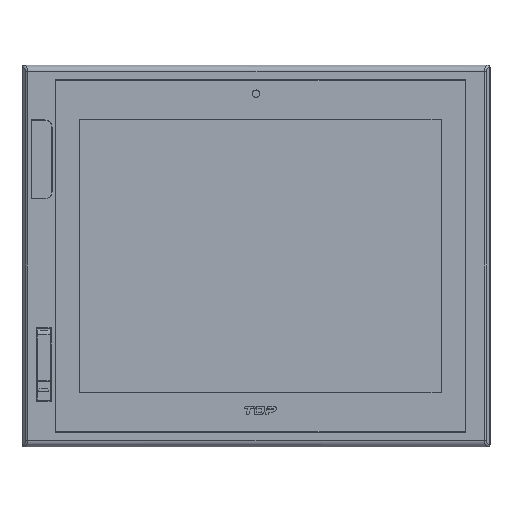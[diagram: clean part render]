
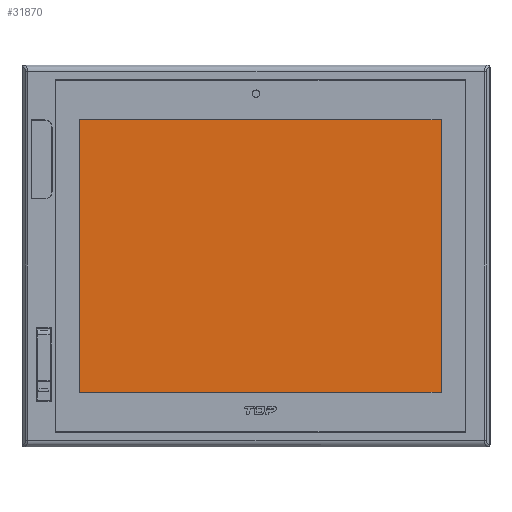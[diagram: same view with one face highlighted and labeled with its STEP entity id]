
A CAD part, top view. The second image highlights one B-rep face of the part: STEP entity #31870.
In plain terms, the highlighted free-form (B-spline) face has degree [1, 1] with [2, 2] control points.
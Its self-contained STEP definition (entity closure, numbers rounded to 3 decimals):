
#7584=DIRECTION('',(0.,-1.,0.));
#7585=VECTOR('',#7584,186.);
#7586=CARTESIAN_POINT('',(-120.5,93.,0.95));
#7587=LINE('',#7586,#7585);
#7591=DIRECTION('',(-1.,0.,0.));
#7592=VECTOR('',#7591,247.);
#7593=CARTESIAN_POINT('',(126.5,93.,0.95));
#7594=LINE('',#7593,#7592);
#7598=DIRECTION('',(0.,1.,0.));
#7599=VECTOR('',#7598,186.);
#7600=CARTESIAN_POINT('',(126.5,-93.,0.95));
#7601=LINE('',#7600,#7599);
#7605=DIRECTION('',(1.,0.,0.));
#7606=VECTOR('',#7605,247.);
#7607=CARTESIAN_POINT('',(-120.5,-93.,0.95));
#7608=LINE('',#7607,#7606);
#21781=CARTESIAN_POINT('',(-120.5,93.,0.95));
#21782=CARTESIAN_POINT('',(-120.5,-93.,0.95));
#21783=VERTEX_POINT('',#21781);
#21784=VERTEX_POINT('',#21782);
#21785=CARTESIAN_POINT('',(126.5,-93.,0.95));
#21786=VERTEX_POINT('',#21785);
#21787=CARTESIAN_POINT('',(126.5,93.,0.95));
#21788=VERTEX_POINT('',#21787);
#31855=CARTESIAN_POINT('',(-125.44,-97.13,0.95));
#31856=CARTESIAN_POINT('',(-125.44,117.63,0.95));
#31857=CARTESIAN_POINT('',(131.44,-97.13,0.95));
#31858=CARTESIAN_POINT('',(131.44,117.63,0.95));
#31859=B_SPLINE_SURFACE_WITH_KNOTS('',1,1,((#31855,#31856),(#31857,#31858)),
.UNSPECIFIED.,.F.,.F.,.F.,(2,2),(2,2),(-125.44,131.44),(-97.13,117.63),
.UNSPECIFIED.);
#31861=ORIENTED_EDGE('',*,*,#31860,.F.);
#31863=ORIENTED_EDGE('',*,*,#31862,.F.);
#31865=ORIENTED_EDGE('',*,*,#31864,.F.);
#31867=ORIENTED_EDGE('',*,*,#31866,.F.);
#31868=EDGE_LOOP('',(#31861,#31863,#31865,#31867));
#31869=FACE_OUTER_BOUND('',#31868,.F.);
#31870=ADVANCED_FACE('',(#31869),#31859,.T.);
#31860=EDGE_CURVE('',#21783,#21784,#7587,.T.);
#31862=EDGE_CURVE('',#21788,#21783,#7594,.T.);
#31864=EDGE_CURVE('',#21786,#21788,#7601,.T.);
#31866=EDGE_CURVE('',#21784,#21786,#7608,.T.);
